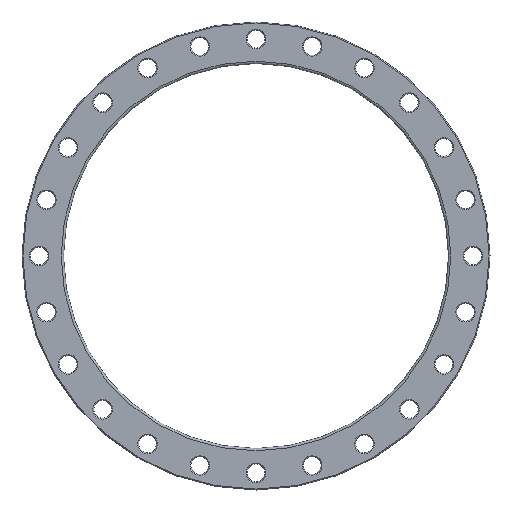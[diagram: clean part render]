
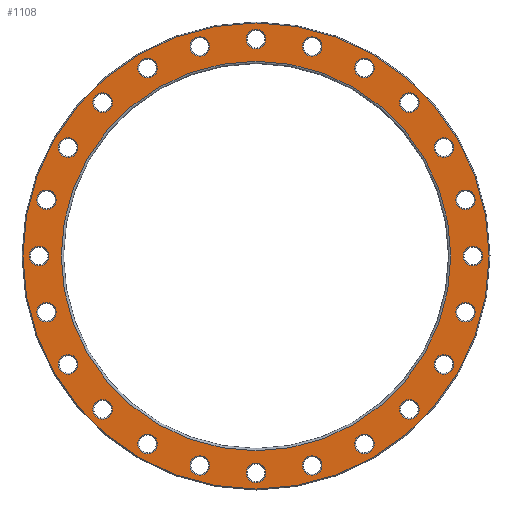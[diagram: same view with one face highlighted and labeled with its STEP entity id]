
A CAD part, front view. The second image highlights one B-rep face of the part: STEP entity #1108.
In plain terms, the highlighted planar face has unit normal (0, -1, 0).
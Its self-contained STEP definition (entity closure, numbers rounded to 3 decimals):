
#23=PLANE('',#1300);
#242=ORIENTED_EDGE('',*,*,#381,.T.);
#243=ORIENTED_EDGE('',*,*,#382,.T.);
#244=ORIENTED_EDGE('',*,*,#284,.T.);
#245=ORIENTED_EDGE('',*,*,#288,.T.);
#246=ORIENTED_EDGE('',*,*,#292,.T.);
#247=ORIENTED_EDGE('',*,*,#296,.T.);
#248=ORIENTED_EDGE('',*,*,#300,.T.);
#249=ORIENTED_EDGE('',*,*,#304,.T.);
#250=ORIENTED_EDGE('',*,*,#308,.T.);
#251=ORIENTED_EDGE('',*,*,#312,.T.);
#252=ORIENTED_EDGE('',*,*,#316,.T.);
#253=ORIENTED_EDGE('',*,*,#320,.T.);
#254=ORIENTED_EDGE('',*,*,#324,.T.);
#255=ORIENTED_EDGE('',*,*,#328,.T.);
#256=ORIENTED_EDGE('',*,*,#332,.T.);
#257=ORIENTED_EDGE('',*,*,#336,.T.);
#258=ORIENTED_EDGE('',*,*,#340,.T.);
#259=ORIENTED_EDGE('',*,*,#344,.T.);
#260=ORIENTED_EDGE('',*,*,#348,.T.);
#261=ORIENTED_EDGE('',*,*,#352,.T.);
#262=ORIENTED_EDGE('',*,*,#356,.T.);
#263=ORIENTED_EDGE('',*,*,#360,.T.);
#264=ORIENTED_EDGE('',*,*,#364,.T.);
#265=ORIENTED_EDGE('',*,*,#368,.T.);
#266=ORIENTED_EDGE('',*,*,#372,.T.);
#267=ORIENTED_EDGE('',*,*,#383,.T.);
#284=EDGE_CURVE('',#388,#388,#492,.T.);
#288=EDGE_CURVE('',#392,#392,#496,.T.);
#292=EDGE_CURVE('',#396,#396,#500,.T.);
#296=EDGE_CURVE('',#400,#400,#504,.T.);
#300=EDGE_CURVE('',#404,#404,#508,.T.);
#304=EDGE_CURVE('',#408,#408,#512,.T.);
#308=EDGE_CURVE('',#412,#412,#516,.T.);
#312=EDGE_CURVE('',#416,#416,#520,.T.);
#316=EDGE_CURVE('',#420,#420,#524,.T.);
#320=EDGE_CURVE('',#424,#424,#528,.T.);
#324=EDGE_CURVE('',#428,#428,#532,.T.);
#328=EDGE_CURVE('',#432,#432,#536,.T.);
#332=EDGE_CURVE('',#436,#436,#540,.T.);
#336=EDGE_CURVE('',#440,#440,#544,.T.);
#340=EDGE_CURVE('',#444,#444,#548,.T.);
#344=EDGE_CURVE('',#448,#448,#552,.T.);
#348=EDGE_CURVE('',#452,#452,#556,.T.);
#352=EDGE_CURVE('',#456,#456,#560,.T.);
#356=EDGE_CURVE('',#460,#460,#564,.T.);
#360=EDGE_CURVE('',#464,#464,#568,.T.);
#364=EDGE_CURVE('',#468,#468,#572,.T.);
#368=EDGE_CURVE('',#472,#472,#576,.T.);
#372=EDGE_CURVE('',#476,#476,#580,.T.);
#381=EDGE_CURVE('',#485,#485,#589,.F.);
#382=EDGE_CURVE('',#486,#486,#590,.T.);
#383=EDGE_CURVE('',#487,#487,#591,.T.);
#388=VERTEX_POINT('',#1691);
#392=VERTEX_POINT('',#1702);
#396=VERTEX_POINT('',#1713);
#400=VERTEX_POINT('',#1724);
#404=VERTEX_POINT('',#1735);
#408=VERTEX_POINT('',#1746);
#412=VERTEX_POINT('',#1757);
#416=VERTEX_POINT('',#1768);
#420=VERTEX_POINT('',#1779);
#424=VERTEX_POINT('',#1790);
#428=VERTEX_POINT('',#1801);
#432=VERTEX_POINT('',#1812);
#436=VERTEX_POINT('',#1823);
#440=VERTEX_POINT('',#1834);
#444=VERTEX_POINT('',#1845);
#448=VERTEX_POINT('',#1856);
#452=VERTEX_POINT('',#1867);
#456=VERTEX_POINT('',#1878);
#460=VERTEX_POINT('',#1889);
#464=VERTEX_POINT('',#1900);
#468=VERTEX_POINT('',#1911);
#472=VERTEX_POINT('',#1922);
#476=VERTEX_POINT('',#1933);
#485=VERTEX_POINT('',#1956);
#486=VERTEX_POINT('',#1958);
#487=VERTEX_POINT('',#1960);
#492=CIRCLE('',#1133,21.5);
#496=CIRCLE('',#1140,21.5);
#500=CIRCLE('',#1147,21.5);
#504=CIRCLE('',#1154,21.5);
#508=CIRCLE('',#1161,21.5);
#512=CIRCLE('',#1168,21.5);
#516=CIRCLE('',#1175,21.5);
#520=CIRCLE('',#1182,21.5);
#524=CIRCLE('',#1189,21.5);
#528=CIRCLE('',#1196,21.5);
#532=CIRCLE('',#1203,21.5);
#536=CIRCLE('',#1210,21.5);
#540=CIRCLE('',#1217,21.5);
#544=CIRCLE('',#1224,21.5);
#548=CIRCLE('',#1231,21.5);
#552=CIRCLE('',#1238,21.5);
#556=CIRCLE('',#1245,21.5);
#560=CIRCLE('',#1252,21.5);
#564=CIRCLE('',#1259,21.5);
#568=CIRCLE('',#1266,21.5);
#572=CIRCLE('',#1273,21.5);
#576=CIRCLE('',#1280,21.5);
#580=CIRCLE('',#1287,21.5);
#589=CIRCLE('',#1301,510.5);
#590=CIRCLE('',#1302,426.5);
#591=CIRCLE('',#1303,21.5);
#762=EDGE_LOOP('',(#242));
#763=EDGE_LOOP('',(#243));
#764=EDGE_LOOP('',(#244));
#765=EDGE_LOOP('',(#245));
#766=EDGE_LOOP('',(#246));
#767=EDGE_LOOP('',(#247));
#768=EDGE_LOOP('',(#248));
#769=EDGE_LOOP('',(#249));
#770=EDGE_LOOP('',(#250));
#771=EDGE_LOOP('',(#251));
#772=EDGE_LOOP('',(#252));
#773=EDGE_LOOP('',(#253));
#774=EDGE_LOOP('',(#254));
#775=EDGE_LOOP('',(#255));
#776=EDGE_LOOP('',(#256));
#777=EDGE_LOOP('',(#257));
#778=EDGE_LOOP('',(#258));
#779=EDGE_LOOP('',(#259));
#780=EDGE_LOOP('',(#260));
#781=EDGE_LOOP('',(#261));
#782=EDGE_LOOP('',(#262));
#783=EDGE_LOOP('',(#263));
#784=EDGE_LOOP('',(#264));
#785=EDGE_LOOP('',(#265));
#786=EDGE_LOOP('',(#266));
#787=EDGE_LOOP('',(#267));
#970=FACE_BOUND('',#762,.T.);
#971=FACE_BOUND('',#763,.T.);
#972=FACE_BOUND('',#764,.T.);
#973=FACE_BOUND('',#765,.T.);
#974=FACE_BOUND('',#766,.T.);
#975=FACE_BOUND('',#767,.T.);
#976=FACE_BOUND('',#768,.T.);
#977=FACE_BOUND('',#769,.T.);
#978=FACE_BOUND('',#770,.T.);
#979=FACE_BOUND('',#771,.T.);
#980=FACE_BOUND('',#772,.T.);
#981=FACE_BOUND('',#773,.T.);
#982=FACE_BOUND('',#774,.T.);
#983=FACE_BOUND('',#775,.T.);
#984=FACE_BOUND('',#776,.T.);
#985=FACE_BOUND('',#777,.T.);
#986=FACE_BOUND('',#778,.T.);
#987=FACE_BOUND('',#779,.T.);
#988=FACE_BOUND('',#780,.T.);
#989=FACE_BOUND('',#781,.T.);
#990=FACE_BOUND('',#782,.T.);
#991=FACE_BOUND('',#783,.T.);
#992=FACE_BOUND('',#784,.T.);
#993=FACE_BOUND('',#785,.T.);
#994=FACE_BOUND('',#786,.T.);
#995=FACE_BOUND('',#787,.T.);
#1108=ADVANCED_FACE('',(#970,#971,#972,#973,#974,#975,#976,#977,#978,#979,
#980,#981,#982,#983,#984,#985,#986,#987,#988,#989,#990,#991,#992,#993,#994,
#995),#23,.F.);
#1133=AXIS2_PLACEMENT_3D('',#1690,#1323,#1324);
#1140=AXIS2_PLACEMENT_3D('',#1701,#1337,#1338);
#1147=AXIS2_PLACEMENT_3D('',#1712,#1351,#1352);
#1154=AXIS2_PLACEMENT_3D('',#1723,#1365,#1366);
#1161=AXIS2_PLACEMENT_3D('',#1734,#1379,#1380);
#1168=AXIS2_PLACEMENT_3D('',#1745,#1393,#1394);
#1175=AXIS2_PLACEMENT_3D('',#1756,#1407,#1408);
#1182=AXIS2_PLACEMENT_3D('',#1767,#1421,#1422);
#1189=AXIS2_PLACEMENT_3D('',#1778,#1435,#1436);
#1196=AXIS2_PLACEMENT_3D('',#1789,#1449,#1450);
#1203=AXIS2_PLACEMENT_3D('',#1800,#1463,#1464);
#1210=AXIS2_PLACEMENT_3D('',#1811,#1477,#1478);
#1217=AXIS2_PLACEMENT_3D('',#1822,#1491,#1492);
#1224=AXIS2_PLACEMENT_3D('',#1833,#1505,#1506);
#1231=AXIS2_PLACEMENT_3D('',#1844,#1519,#1520);
#1238=AXIS2_PLACEMENT_3D('',#1855,#1533,#1534);
#1245=AXIS2_PLACEMENT_3D('',#1866,#1547,#1548);
#1252=AXIS2_PLACEMENT_3D('',#1877,#1561,#1562);
#1259=AXIS2_PLACEMENT_3D('',#1888,#1575,#1576);
#1266=AXIS2_PLACEMENT_3D('',#1899,#1589,#1590);
#1273=AXIS2_PLACEMENT_3D('',#1910,#1603,#1604);
#1280=AXIS2_PLACEMENT_3D('',#1921,#1617,#1618);
#1287=AXIS2_PLACEMENT_3D('',#1932,#1631,#1632);
#1300=AXIS2_PLACEMENT_3D('',#1954,#1657,#1658);
#1301=AXIS2_PLACEMENT_3D('',#1955,#1659,#1660);
#1302=AXIS2_PLACEMENT_3D('',#1957,#1661,#1662);
#1303=AXIS2_PLACEMENT_3D('',#1959,#1663,#1664);
#1323=DIRECTION('',(0.,1.,0.));
#1324=DIRECTION('',(0.966,0.,0.259));
#1337=DIRECTION('',(0.,1.,0.));
#1338=DIRECTION('',(0.866,0.,0.5));
#1351=DIRECTION('',(0.,1.,0.));
#1352=DIRECTION('',(0.707,0.,0.707));
#1365=DIRECTION('',(0.,1.,0.));
#1366=DIRECTION('',(0.5,0.,0.866));
#1379=DIRECTION('',(0.,1.,0.));
#1380=DIRECTION('',(0.259,0.,0.966));
#1393=DIRECTION('',(0.,1.,0.));
#1394=DIRECTION('',(0.,0.,1.));
#1407=DIRECTION('',(0.,1.,0.));
#1408=DIRECTION('',(-0.259,0.,0.966));
#1421=DIRECTION('',(0.,1.,0.));
#1422=DIRECTION('',(-0.5,0.,0.866));
#1435=DIRECTION('',(0.,1.,0.));
#1436=DIRECTION('',(-0.707,0.,0.707));
#1449=DIRECTION('',(0.,1.,0.));
#1450=DIRECTION('',(-0.866,0.,0.5));
#1463=DIRECTION('',(0.,1.,0.));
#1464=DIRECTION('',(-0.966,0.,0.259));
#1477=DIRECTION('',(0.,1.,0.));
#1478=DIRECTION('',(-1.,0.,0.));
#1491=DIRECTION('',(0.,1.,0.));
#1492=DIRECTION('',(-0.966,0.,-0.259));
#1505=DIRECTION('',(0.,1.,0.));
#1506=DIRECTION('',(-0.866,0.,-0.5));
#1519=DIRECTION('',(0.,1.,0.));
#1520=DIRECTION('',(-0.707,0.,-0.707));
#1533=DIRECTION('',(0.,1.,0.));
#1534=DIRECTION('',(-0.5,0.,-0.866));
#1547=DIRECTION('',(0.,1.,0.));
#1548=DIRECTION('',(-0.259,0.,-0.966));
#1561=DIRECTION('',(0.,1.,0.));
#1562=DIRECTION('',(0.,0.,-1.));
#1575=DIRECTION('',(0.,1.,0.));
#1576=DIRECTION('',(0.259,0.,-0.966));
#1589=DIRECTION('',(0.,1.,0.));
#1590=DIRECTION('',(0.5,0.,-0.866));
#1603=DIRECTION('',(0.,1.,0.));
#1604=DIRECTION('',(0.707,0.,-0.707));
#1617=DIRECTION('',(0.,1.,0.));
#1618=DIRECTION('',(0.866,0.,-0.5));
#1631=DIRECTION('',(0.,1.,0.));
#1632=DIRECTION('',(0.966,0.,-0.259));
#1657=DIRECTION('',(0.,1.,0.));
#1658=DIRECTION('',(0.,0.,1.));
#1659=DIRECTION('',(0.,1.,0.));
#1660=DIRECTION('',(0.,0.,1.));
#1661=DIRECTION('',(0.,1.,0.));
#1662=DIRECTION('',(0.,0.,1.));
#1663=DIRECTION('',(0.,1.,0.));
#1664=DIRECTION('',(1.,0.,0.));
#1690=CARTESIAN_POINT('',(-122.939,0.,458.815));
#1691=CARTESIAN_POINT('',(-102.172,0.,464.379));
#1701=CARTESIAN_POINT('',(-237.5,0.,411.362));
#1702=CARTESIAN_POINT('',(-218.88,0.,422.112));
#1712=CARTESIAN_POINT('',(-335.876,0.,335.876));
#1713=CARTESIAN_POINT('',(-320.673,0.,351.079));
#1723=CARTESIAN_POINT('',(-411.362,0.,237.5));
#1724=CARTESIAN_POINT('',(-400.612,0.,256.12));
#1734=CARTESIAN_POINT('',(-458.815,0.,122.939));
#1735=CARTESIAN_POINT('',(-453.25,0.,143.706));
#1745=CARTESIAN_POINT('',(-475.,0.,0.));
#1746=CARTESIAN_POINT('',(-475.,0.,21.5));
#1756=CARTESIAN_POINT('',(-458.815,0.,-122.939));
#1757=CARTESIAN_POINT('',(-464.379,0.,-102.172));
#1767=CARTESIAN_POINT('',(-411.362,0.,-237.5));
#1768=CARTESIAN_POINT('',(-422.112,0.,-218.88));
#1778=CARTESIAN_POINT('',(-335.876,0.,-335.876));
#1779=CARTESIAN_POINT('',(-351.079,0.,-320.673));
#1789=CARTESIAN_POINT('',(-237.5,0.,-411.362));
#1790=CARTESIAN_POINT('',(-256.12,0.,-400.612));
#1800=CARTESIAN_POINT('',(-122.939,0.,-458.815));
#1801=CARTESIAN_POINT('',(-143.706,0.,-453.25));
#1811=CARTESIAN_POINT('',(0.,0.,-475.));
#1812=CARTESIAN_POINT('',(-21.5,0.,-475.));
#1822=CARTESIAN_POINT('',(122.939,0.,-458.815));
#1823=CARTESIAN_POINT('',(102.172,0.,-464.379));
#1833=CARTESIAN_POINT('',(237.5,0.,-411.362));
#1834=CARTESIAN_POINT('',(218.88,0.,-422.112));
#1844=CARTESIAN_POINT('',(335.876,0.,-335.876));
#1845=CARTESIAN_POINT('',(320.673,0.,-351.079));
#1855=CARTESIAN_POINT('',(411.362,0.,-237.5));
#1856=CARTESIAN_POINT('',(400.612,0.,-256.12));
#1866=CARTESIAN_POINT('',(458.815,0.,-122.939));
#1867=CARTESIAN_POINT('',(453.25,0.,-143.706));
#1877=CARTESIAN_POINT('',(475.,0.,0.));
#1878=CARTESIAN_POINT('',(475.,0.,-21.5));
#1888=CARTESIAN_POINT('',(458.815,0.,122.939));
#1889=CARTESIAN_POINT('',(464.379,0.,102.172));
#1899=CARTESIAN_POINT('',(411.362,0.,237.5));
#1900=CARTESIAN_POINT('',(422.112,0.,218.88));
#1910=CARTESIAN_POINT('',(335.876,0.,335.876));
#1911=CARTESIAN_POINT('',(351.079,0.,320.673));
#1921=CARTESIAN_POINT('',(237.5,0.,411.362));
#1922=CARTESIAN_POINT('',(256.12,0.,400.612));
#1932=CARTESIAN_POINT('',(122.939,0.,458.815));
#1933=CARTESIAN_POINT('',(143.706,0.,453.25));
#1954=CARTESIAN_POINT('',(0.,0.,0.));
#1955=CARTESIAN_POINT('',(0.,0.,0.));
#1956=CARTESIAN_POINT('',(0.,0.,510.5));
#1957=CARTESIAN_POINT('',(0.,0.,0.));
#1958=CARTESIAN_POINT('',(0.,0.,426.5));
#1959=CARTESIAN_POINT('',(0.,0.,475.));
#1960=CARTESIAN_POINT('',(21.5,0.,475.));
